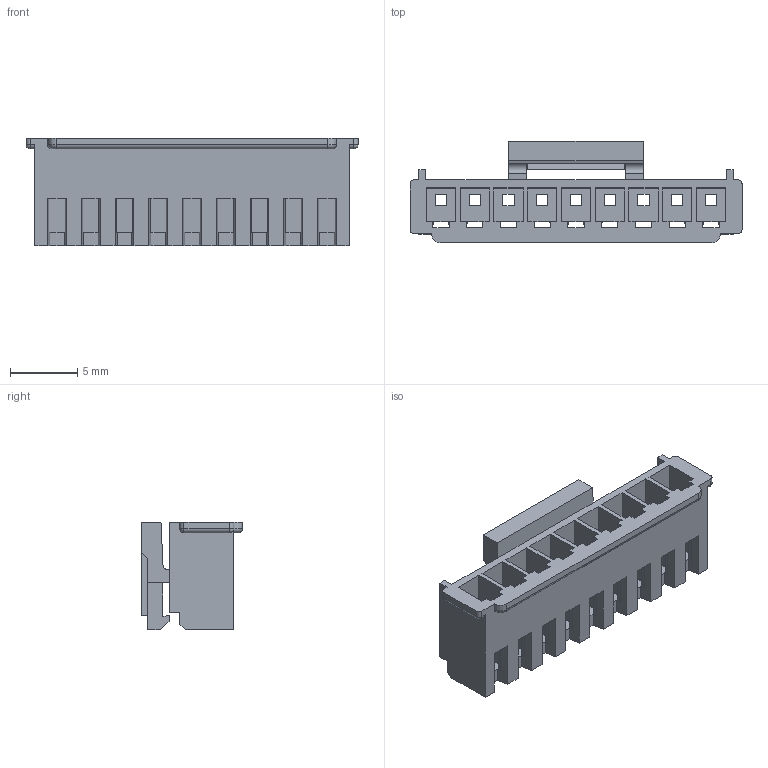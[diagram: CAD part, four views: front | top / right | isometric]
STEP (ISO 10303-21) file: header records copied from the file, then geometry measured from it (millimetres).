
FILE_DESCRIPTION(('CATIA V5 STEP Exchange'),'2;1');
FILE_NAME('Z:\3D文件\小黄（备用文件夹）\条形连接器-小黄\TJC3C\NY\HC-TJC3C-9Y-05（2.50 单排 带扣 孔座-HCTL）.stp','2025-05-14T09:34:04+00:00',('none'),('none'),'CATIA Version 5 Release 20 GA (IN-10)','CATIA V5 STEP AP203','none');
FILE_SCHEMA(('CONFIG_CONTROL_DESIGN'));
Length unit declared in the file: millimetre
Products named in the file (1): Part2
Bounding box: 24.6 x 7.5 x 8 mm (x, y, z)
Volume: 456.9 mm3; surface area: 1509.6 mm2
Topology: 1 solids, 1 shells, 257 faces, 746 edges, 476 vertices
Faces by surface type: plane 236, cylinder 15, sphere 4, torus 2
Entity records: 7816 total; most frequent: ORIENTED_EDGE 1484, CARTESIAN_POINT 1406, DIRECTION 1046, EDGE_CURVE 742, VECTOR 708, LINE 708, VERTEX_POINT 476, EDGE_LOOP 284
